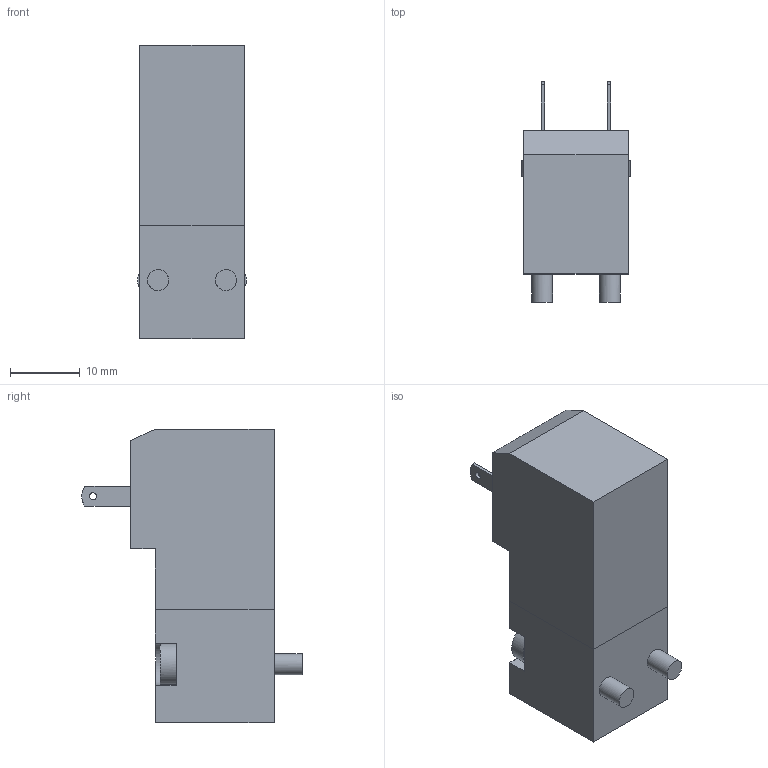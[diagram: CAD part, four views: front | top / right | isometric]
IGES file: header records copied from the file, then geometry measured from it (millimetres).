
Global section: file name: N3##_0#-2; native system: Autodesk Inventor 2014; preprocessor: unknown; author: A. Manieri; organization: Pneumax S.p.A.; date: 20160908.134842; units: millimetre
Bounding box: 15.5 x 31.5 x 42 mm (x, y, z)
Volume: 11537.6 mm3; surface area: 3764.5 mm2
Topology: 1 solids, 1 shells, 81 faces, 210 edges, 138 vertices
Faces by surface type: bspline 81
